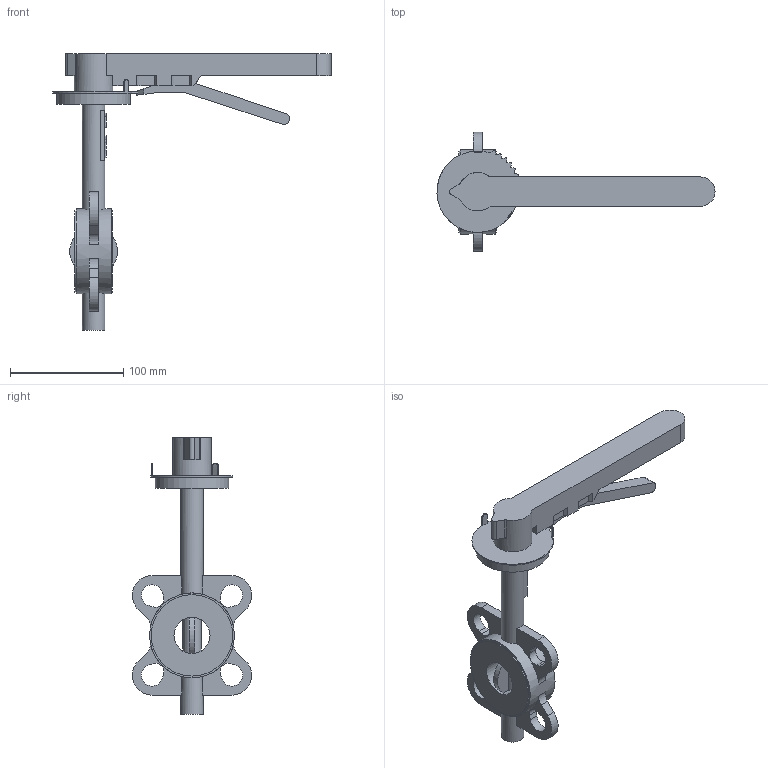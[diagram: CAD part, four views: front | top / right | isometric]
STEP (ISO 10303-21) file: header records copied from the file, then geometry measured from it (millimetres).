
FILE_DESCRIPTION(('STEP AP203'), '1');
FILE_NAME('Çàòâîð 017W.Z(÷óãóí) DN32 PN10_16 ðóêîÿòêà', '', ('UNSPECIFIED'), ('UNSPECIFIED'), 'ASCON STEP Converter 1.6', 'ASCON Math Kernel', '');
FILE_SCHEMA(('CONFIG_CONTROL_DESIGN'));
Length unit declared in the file: millimetre
Bounding box: 245.97 x 105.66 x 245 mm (x, y, z)
Volume: 391531 mm3; surface area: 78338.9 mm2
Topology: 1 solids, 1 shells, 693 faces, 1986 edges, 1322 vertices
Faces by surface type: cylinder 409, plane 284
Full cylindrical faces by diameter (mm): 8 x4, 20 x2, 32 x1, 34 x1, 65 x1, 72 x2, 75 x1
Entity records: 29404 total; most frequent: CARTESIAN_POINT 4912, DIRECTION 4171, ORIENTED_EDGE 3948, EDGE_CURVE 1974, AXIS2_PLACEMENT_3D 1524, VERTEX_POINT 1322, LINE 1123, VECTOR 1123
